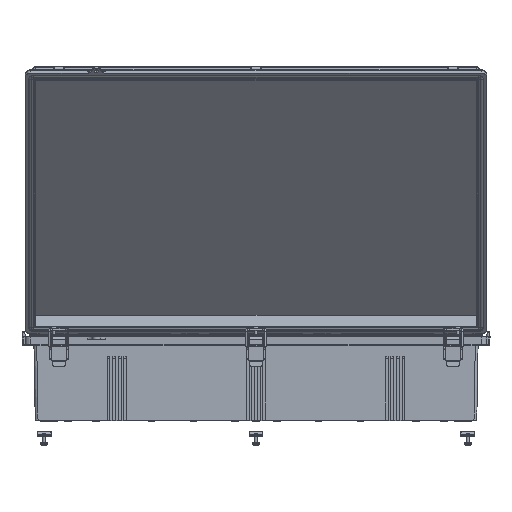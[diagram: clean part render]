
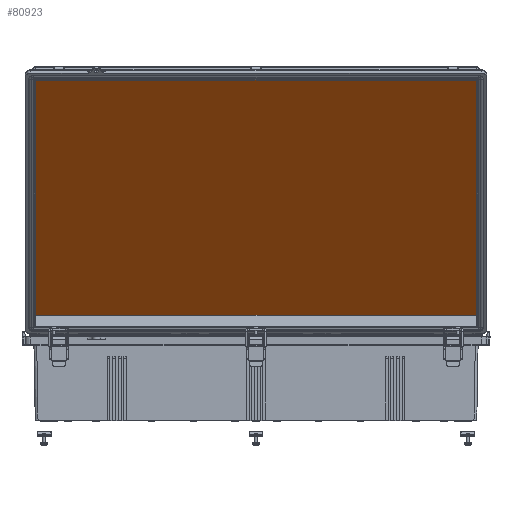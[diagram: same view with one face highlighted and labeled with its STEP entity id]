
A CAD part, top view. The second image highlights one B-rep face of the part: STEP entity #80923.
In plain terms, the highlighted planar face has unit normal (0, -0.669, 0.743) as drawn and (0, 1, 0) by its records, which use the part's own axes.
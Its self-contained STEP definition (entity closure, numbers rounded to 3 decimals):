
#99 = CARTESIAN_POINT ( 'NONE',  ( -396.726, -30.5, -296.302 ) ) ;
#8695 = PLANE ( 'NONE',  #55169 ) ;
#13125 = LINE ( 'NONE', #98716, #60838 ) ;
#13437 = CARTESIAN_POINT ( 'NONE',  ( -396.726, -30.5, 296.302 ) ) ;
#13855 = CARTESIAN_POINT ( 'NONE',  ( 396.726, -30.5, 295.702 ) ) ;
#14103 = EDGE_CURVE ( 'NONE', #94574, #42909, #14740, .T. ) ;
#14568 = EDGE_CURVE ( 'NONE', #94974, #48465, #70384, .T. ) ;
#14740 =( BOUNDED_CURVE ( )  B_SPLINE_CURVE ( 3, ( #68041, #13437, #51116, #88228 ),
 .UNSPECIFIED., .F., .F. ) 
 B_SPLINE_CURVE_WITH_KNOTS ( ( 4, 4 ),
 ( 2.356, 3.927 ),
 .UNSPECIFIED. ) 
 CURVE ( )  GEOMETRIC_REPRESENTATION_ITEM ( )  RATIONAL_B_SPLINE_CURVE ( ( 1., 0.805, 0.805, 1. ) ) 
 REPRESENTATION_ITEM ( '' )  );
#18014 = CARTESIAN_POINT ( 'NONE',  ( 0., -30.5, 0. ) ) ;
#22911 = CARTESIAN_POINT ( 'NONE',  ( -396.726, -30.5, 295.698 ) ) ;
#25396 = CARTESIAN_POINT ( 'NONE',  ( 396.726, -30.5, -295.702 ) ) ;
#25694 = EDGE_CURVE ( 'NONE', #83153, #34710, #27436, .T. ) ;
#27329 = CARTESIAN_POINT ( 'NONE',  ( -396.726, -30.5, -295.702 ) ) ;
#27436 =( BOUNDED_CURVE ( )  B_SPLINE_CURVE ( 3, ( #25396, #34662, #61780, #53307 ),
 .UNSPECIFIED., .F., .T. ) 
 B_SPLINE_CURVE_WITH_KNOTS ( ( 4, 4 ),
 ( 2.356, 3.927 ),
 .UNSPECIFIED. ) 
 CURVE ( )  GEOMETRIC_REPRESENTATION_ITEM ( )  RATIONAL_B_SPLINE_CURVE ( ( 1., 0.805, 0.805, 1. ) ) 
 REPRESENTATION_ITEM ( '' )  );
#30133 = EDGE_CURVE ( 'NONE', #111926, #46519, #31130, .T. ) ;
#31130 =( BOUNDED_CURVE ( )  B_SPLINE_CURVE ( 3, ( #91910, #74065, #99, #36949 ),
 .UNSPECIFIED., .F., .T. ) 
 B_SPLINE_CURVE_WITH_KNOTS ( ( 4, 4 ),
 ( 2.356, 3.927 ),
 .UNSPECIFIED. ) 
 CURVE ( )  GEOMETRIC_REPRESENTATION_ITEM ( )  RATIONAL_B_SPLINE_CURVE ( ( 1., 0.805, 0.805, 1. ) ) 
 REPRESENTATION_ITEM ( '' )  );
#32344 = ORIENTED_EDGE ( 'NONE', *, *, #30133, .T. ) ;
#32792 = CARTESIAN_POINT ( 'NONE',  ( 395.702, -30.5, 296.726 ) ) ;
#33365 = CARTESIAN_POINT ( 'NONE',  ( 395.698, -30.5, 296.726 ) ) ;
#34662 = CARTESIAN_POINT ( 'NONE',  ( 396.726, -30.5, -296.302 ) ) ;
#34710 = VERTEX_POINT ( 'NONE', #69716 ) ;
#36949 = CARTESIAN_POINT ( 'NONE',  ( -396.726, -30.5, -295.702 ) ) ;
#37865 = EDGE_CURVE ( 'NONE', #42909, #94974, #100070, .T. ) ;
#41974 = ORIENTED_EDGE ( 'NONE', *, *, #25694, .T. ) ;
#42433 = LINE ( 'NONE', #22911, #61236 ) ;
#42909 = VERTEX_POINT ( 'NONE', #107958 ) ;
#46519 = VERTEX_POINT ( 'NONE', #27329 ) ;
#48465 = VERTEX_POINT ( 'NONE', #13855 ) ;
#49162 = ORIENTED_EDGE ( 'NONE', *, *, #50550, .T. ) ;
#50550 = EDGE_CURVE ( 'NONE', #48465, #83153, #66406, .T. ) ;
#50880 = CARTESIAN_POINT ( 'NONE',  ( -396.726, -30.5, 295.702 ) ) ;
#51017 = CARTESIAN_POINT ( 'NONE',  ( 396.726, -30.5, 296.302 ) ) ;
#51116 = CARTESIAN_POINT ( 'NONE',  ( -396.302, -30.5, 296.726 ) ) ;
#53271 = EDGE_LOOP ( 'NONE', ( #49162, #41974, #82391, #32344, #54568, #101109, #60621, #110615 ) ) ;
#53307 = CARTESIAN_POINT ( 'NONE',  ( 395.702, -30.5, -296.726 ) ) ;
#54072 = DIRECTION ( 'NONE',  ( 0., 0., 1. ) ) ;
#54568 = ORIENTED_EDGE ( 'NONE', *, *, #89637, .T. ) ;
#55169 = AXIS2_PLACEMENT_3D ( 'NONE', #18014, #119405, #54072 ) ;
#57654 = FACE_OUTER_BOUND ( 'NONE', #53271, .T. ) ;
#60621 = ORIENTED_EDGE ( 'NONE', *, *, #37865, .T. ) ;
#60838 = VECTOR ( 'NONE', #117242, 1000. ) ;
#61236 = VECTOR ( 'NONE', #96476, 1000. ) ;
#61780 = CARTESIAN_POINT ( 'NONE',  ( 396.302, -30.5, -296.726 ) ) ;
#62073 = EDGE_CURVE ( 'NONE', #34710, #111926, #13125, .T. ) ;
#62544 = DIRECTION ( 'NONE',  ( 0., 0., -1. ) ) ;
#66406 = LINE ( 'NONE', #80653, #72183 ) ;
#66721 = CARTESIAN_POINT ( 'NONE',  ( 396.726, -30.5, 295.702 ) ) ;
#68041 = CARTESIAN_POINT ( 'NONE',  ( -396.726, -30.5, 295.702 ) ) ;
#68441 = CARTESIAN_POINT ( 'NONE',  ( 395.702, -30.5, 296.726 ) ) ;
#69716 = CARTESIAN_POINT ( 'NONE',  ( 395.702, -30.5, -296.726 ) ) ;
#70384 =( BOUNDED_CURVE ( )  B_SPLINE_CURVE ( 3, ( #32792, #94619, #51017, #66721 ),
 .UNSPECIFIED., .F., .T. ) 
 B_SPLINE_CURVE_WITH_KNOTS ( ( 4, 4 ),
 ( 2.356, 3.927 ),
 .UNSPECIFIED. ) 
 CURVE ( )  GEOMETRIC_REPRESENTATION_ITEM ( )  RATIONAL_B_SPLINE_CURVE ( ( 1., 0.805, 0.805, 1. ) ) 
 REPRESENTATION_ITEM ( '' )  );
#72183 = VECTOR ( 'NONE', #62544, 1000. ) ;
#74065 = CARTESIAN_POINT ( 'NONE',  ( -396.302, -30.5, -296.726 ) ) ;
#75444 = VECTOR ( 'NONE', #97606, 1000. ) ;
#80653 = CARTESIAN_POINT ( 'NONE',  ( 396.726, -30.5, -295.698 ) ) ;
#80923 = ADVANCED_FACE ( 'NONE', ( #57654 ), #8695, .T. ) ;
#82391 = ORIENTED_EDGE ( 'NONE', *, *, #62073, .T. ) ;
#83153 = VERTEX_POINT ( 'NONE', #107809 ) ;
#88228 = CARTESIAN_POINT ( 'NONE',  ( -395.702, -30.5, 296.726 ) ) ;
#89637 = EDGE_CURVE ( 'NONE', #46519, #94574, #42433, .T. ) ;
#91910 = CARTESIAN_POINT ( 'NONE',  ( -395.702, -30.5, -296.726 ) ) ;
#94574 = VERTEX_POINT ( 'NONE', #50880 ) ;
#94619 = CARTESIAN_POINT ( 'NONE',  ( 396.302, -30.5, 296.726 ) ) ;
#94974 = VERTEX_POINT ( 'NONE', #68441 ) ;
#96476 = DIRECTION ( 'NONE',  ( 0., 0., 1. ) ) ;
#97606 = DIRECTION ( 'NONE',  ( 1., 0., 0. ) ) ;
#98716 = CARTESIAN_POINT ( 'NONE',  ( -395.698, -30.5, -296.726 ) ) ;
#100070 = LINE ( 'NONE', #33365, #75444 ) ;
#101109 = ORIENTED_EDGE ( 'NONE', *, *, #14103, .T. ) ;
#107809 = CARTESIAN_POINT ( 'NONE',  ( 396.726, -30.5, -295.702 ) ) ;
#107958 = CARTESIAN_POINT ( 'NONE',  ( -395.702, -30.5, 296.726 ) ) ;
#110615 = ORIENTED_EDGE ( 'NONE', *, *, #14568, .T. ) ;
#111926 = VERTEX_POINT ( 'NONE', #112056 ) ;
#112056 = CARTESIAN_POINT ( 'NONE',  ( -395.702, -30.5, -296.726 ) ) ;
#117242 = DIRECTION ( 'NONE',  ( -1., 0., 0. ) ) ;
#119405 = DIRECTION ( 'NONE',  ( 0., 1., 0. ) ) ;
